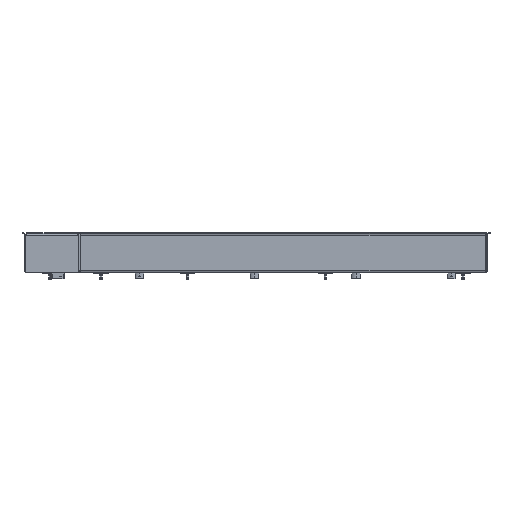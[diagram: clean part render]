
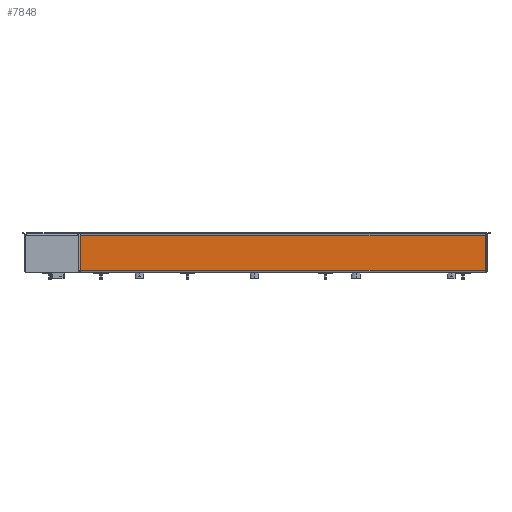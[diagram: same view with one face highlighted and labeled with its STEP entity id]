
A CAD part, left-side view. The second image highlights one B-rep face of the part: STEP entity #7848.
In plain terms, the highlighted planar face has unit normal (-1, 0, 0).
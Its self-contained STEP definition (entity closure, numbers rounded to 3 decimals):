
#7470=CARTESIAN_POINT('Vertex',(41.8,746.9,3.5)) ;
#7523=CARTESIAN_POINT('Vertex',(41.8,71.3,3.5)) ;
#7645=CARTESIAN_POINT('Line Origine',(41.8,409.1,3.5)) ;
#7662=CARTESIAN_POINT('Line Origine',(41.8,746.9,33.)) ;
#7666=CARTESIAN_POINT('Vertex',(41.8,746.9,62.5)) ;
#7800=CARTESIAN_POINT('Vertex',(41.8,71.3,62.5)) ;
#7803=CARTESIAN_POINT('Line Origine',(41.8,71.3,33.)) ;
#7832=CARTESIAN_POINT('Axis2P3D Location',(41.8,71.3,3.5)) ;
#7837=CARTESIAN_POINT('Line Origine',(41.8,409.1,62.5)) ;
#7646=DIRECTION('Vector Direction',(0.,1.,0.)) ;
#7663=DIRECTION('Vector Direction',(0.,0.,-1.)) ;
#7804=DIRECTION('Vector Direction',(0.,0.,-1.)) ;
#7833=DIRECTION('Axis2P3D Direction',(-1.,0.,0.)) ;
#7834=DIRECTION('Axis2P3D XDirection',(0.,0.,1.)) ;
#7838=DIRECTION('Vector Direction',(0.,-1.,0.)) ;
#7835=AXIS2_PLACEMENT_3D('Plane Axis2P3D',#7832,#7833,#7834) ;
#7647=VECTOR('Line Direction',#7646,1.) ;
#7664=VECTOR('Line Direction',#7663,1.) ;
#7805=VECTOR('Line Direction',#7804,1.) ;
#7839=VECTOR('Line Direction',#7838,1.) ;
#7649=EDGE_CURVE('',#7524,#7471,#7648,.T.) ;
#7668=EDGE_CURVE('',#7667,#7471,#7665,.T.) ;
#7807=EDGE_CURVE('',#7801,#7524,#7806,.T.) ;
#7841=EDGE_CURVE('',#7667,#7801,#7840,.T.) ;
#7836=PLANE('',#7835) ;
#7843=ORIENTED_EDGE('',*,*,#7649,.F.) ;
#7844=ORIENTED_EDGE('',*,*,#7807,.F.) ;
#7845=ORIENTED_EDGE('',*,*,#7841,.F.) ;
#7846=ORIENTED_EDGE('',*,*,#7668,.T.) ;
#7848=ADVANCED_FACE('PartBody',(#7847),#7836,.T.) ;
#7842=EDGE_LOOP('',(#7843,#7844,#7845,#7846)) ;
#7847=FACE_OUTER_BOUND('',#7842,.T.) ;
#7648=LINE('Line',#7645,#7647) ;
#7665=LINE('Line',#7662,#7664) ;
#7806=LINE('Line',#7803,#7805) ;
#7840=LINE('Line',#7837,#7839) ;
#7471=VERTEX_POINT('',#7470) ;
#7524=VERTEX_POINT('',#7523) ;
#7667=VERTEX_POINT('',#7666) ;
#7801=VERTEX_POINT('',#7800) ;
